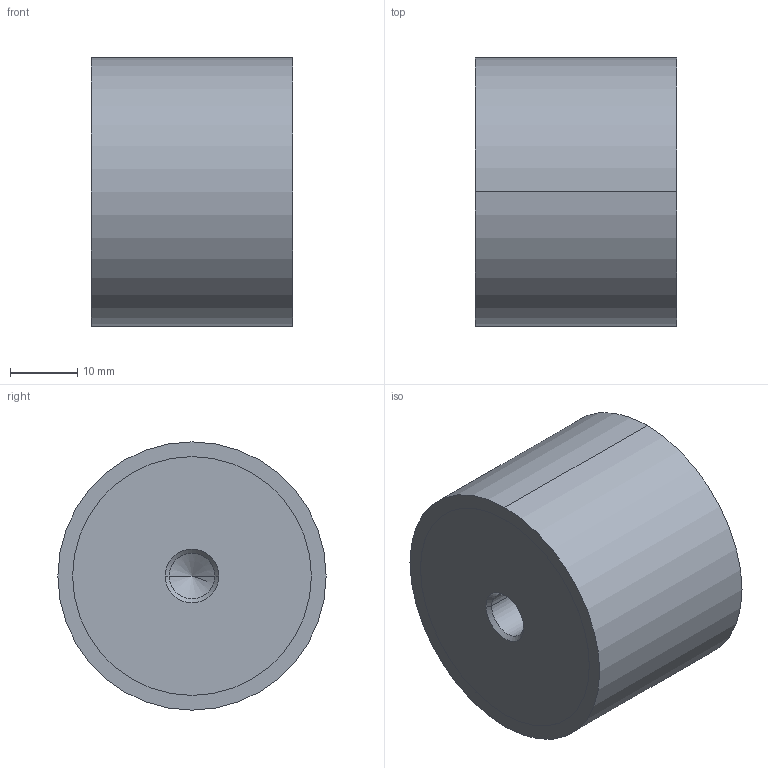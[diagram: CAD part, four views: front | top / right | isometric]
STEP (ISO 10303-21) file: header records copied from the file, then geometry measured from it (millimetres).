
FILE_DESCRIPTION (( 'STEP AP214' ), '1' );
FILE_NAME ('451-40-30-M8-EE-55.step', '2020-03-05T09:12:53', ( '' ), ( '' ), 'SwSTEP 2.0', 'SolidWorks 2019', '' );
FILE_SCHEMA (( 'AUTOMOTIVE_DESIGN' ));
Length unit declared in the file: millimetre
Products named in the file (1): 451-40-30-M8-EE-55
Bounding box: 30 x 40 x 40 mm (x, y, z)
Volume: 37041.5 mm3; surface area: 6625 mm2
Topology: 1 solids, 1 shells, 22 faces, 46 edges, 26 vertices
Faces by surface type: cylinder 10, cone 8, plane 4
Entity records: 684 total; most frequent: DIRECTION 112, CARTESIAN_POINT 91, ORIENTED_EDGE 84, AXIS2_PLACEMENT_3D 47, EDGE_CURVE 42, VERTEX_POINT 26, EDGE_LOOP 26, CIRCLE 24
